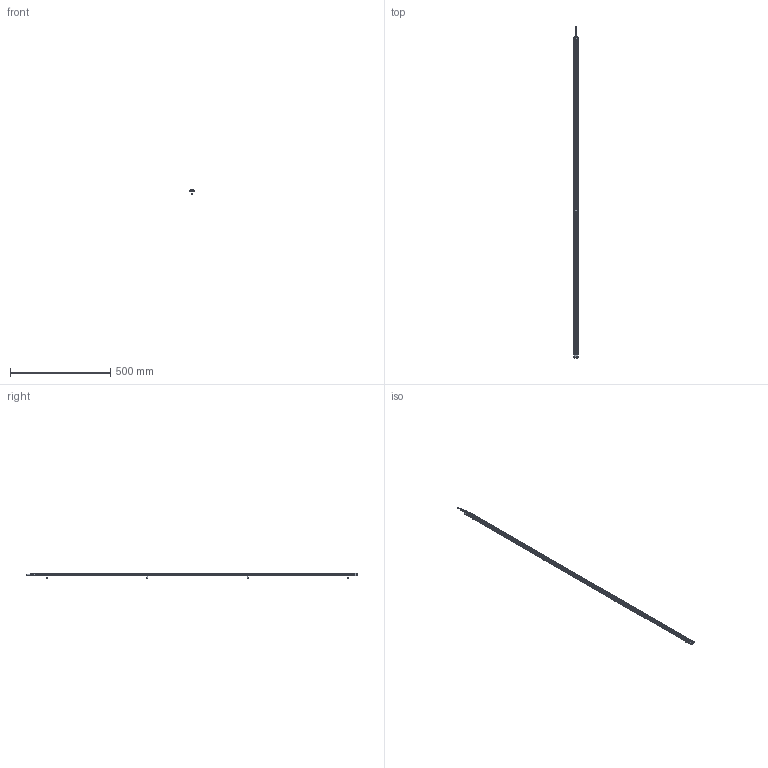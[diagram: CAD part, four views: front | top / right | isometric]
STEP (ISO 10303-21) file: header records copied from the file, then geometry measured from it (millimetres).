
FILE_DESCRIPTION (( 'STEP AP214' ), '1' );
FILE_NAME ('ILGA-B-K2-1600mm.STEP', '2026-04-24T22:56:29', ( '' ), ( '' ), 'SwSTEP 2.0', 'SolidWorks 2025', '' );
FILE_SCHEMA (( 'AUTOMOTIVE_DESIGN' ));
Length unit declared in the file: millimetre
Products named in the file (1): ILGA-B-K2-1600mm
Bounding box: 22.4 x 1654.5 x 25.7 mm (x, y, z)
Surface area: 219573.3 mm2 (no closed solid volume)
Topology: 0 solids, 17 shells, 975 faces, 2532 edges, 1571 vertices
Faces by surface type: cylinder 403, plane 364, cone 86, bspline 56, torus 50, sphere 16
Entity records: 42888 total; most frequent: CARTESIAN_POINT 8692, ORIENTED_EDGE 4945, DIRECTION 4896, EDGE_CURVE 2480, AXIS2_PLACEMENT_3D 1879, VERTEX_POINT 1571, VECTOR 1138, LINE 1138
